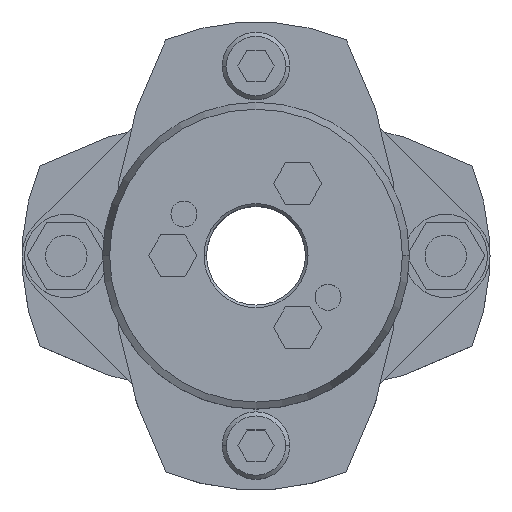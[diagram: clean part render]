
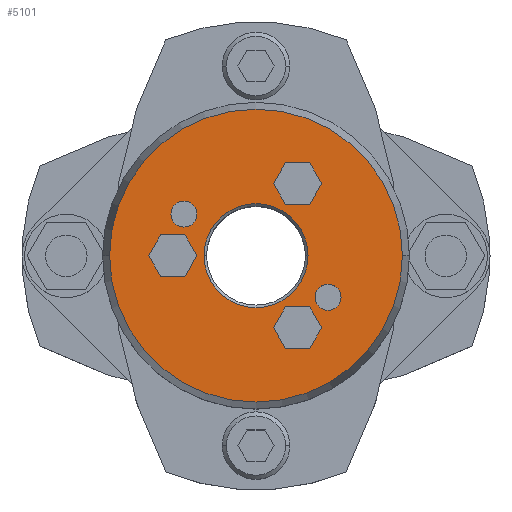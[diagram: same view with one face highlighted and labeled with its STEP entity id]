
A CAD part, top view. The second image highlights one B-rep face of the part: STEP entity #5101.
In plain terms, the highlighted planar face has unit normal (0, 0, 1).
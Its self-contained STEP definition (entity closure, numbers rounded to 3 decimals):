
#857=CARTESIAN_POINT('',(-10.,0.,39.25));
#858=VERTEX_POINT('',#857);
#874=CARTESIAN_POINT('',(10.,0.,39.25));
#875=VERTEX_POINT('',#874);
#882=CARTESIAN_POINT('',(0.,0.,39.25));
#883=DIRECTION('',(0.0,0.0,1.0));
#884=DIRECTION('',(-1.0,0.0,0.0));
#885=AXIS2_PLACEMENT_3D('',#882,#883,#884);
#886=CIRCLE('',#885,10.0);
#887=EDGE_CURVE('',#875,#858,#886,.T.);
#1045=CARTESIAN_POINT('',(28.16,0.,39.25));
#1046=VERTEX_POINT('',#1045);
#1053=CARTESIAN_POINT('',(-28.16,0.,39.25));
#1054=VERTEX_POINT('',#1053);
#1055=CARTESIAN_POINT('',(0.,0.,39.25));
#1056=DIRECTION('',(0.0,0.0,-1.0));
#1057=DIRECTION('',(1.0,0.0,0.0));
#1058=AXIS2_PLACEMENT_3D('',#1055,#1056,#1057);
#1059=CIRCLE('',#1058,28.16);
#1060=EDGE_CURVE('',#1046,#1054,#1059,.T.);
#1303=CARTESIAN_POINT('',(-16.356,8.,39.25));
#1304=VERTEX_POINT('',#1303);
#1320=CARTESIAN_POINT('',(-11.356,8.,39.25));
#1321=VERTEX_POINT('',#1320);
#1328=CARTESIAN_POINT('',(-13.856,8.,39.25));
#1329=DIRECTION('',(0.0,0.0,-1.0));
#1330=DIRECTION('',(-1.0,0.0,0.0));
#1331=AXIS2_PLACEMENT_3D('',#1328,#1329,#1330);
#1332=CIRCLE('',#1331,2.5);
#1333=EDGE_CURVE('',#1304,#1321,#1332,.T.);
#1345=CARTESIAN_POINT('',(11.356,-8.,39.25));
#1346=VERTEX_POINT('',#1345);
#1362=CARTESIAN_POINT('',(16.356,-8.,39.25));
#1363=VERTEX_POINT('',#1362);
#1370=CARTESIAN_POINT('',(13.856,-8.,39.25));
#1371=DIRECTION('',(0.0,0.0,-1.0));
#1372=DIRECTION('',(-1.0,0.0,0.0));
#1373=AXIS2_PLACEMENT_3D('',#1370,#1371,#1372);
#1374=CIRCLE('',#1373,2.5);
#1375=EDGE_CURVE('',#1346,#1363,#1374,.T.);
#3617=CARTESIAN_POINT('',(3.381,13.856,39.25));
#3618=VERTEX_POINT('',#3617);
#3625=CARTESIAN_POINT('',(5.691,9.856,39.25));
#3626=VERTEX_POINT('',#3625);
#3627=CARTESIAN_POINT('',(5.691,9.856,39.25));
#3628=DIRECTION('',(-0.5,0.866,0.0));
#3629=VECTOR('',#3628,4.619);
#3630=LINE('',#3627,#3629);
#3631=EDGE_CURVE('',#3626,#3618,#3630,.T.);
#3655=CARTESIAN_POINT('',(5.691,17.856,39.25));
#3656=VERTEX_POINT('',#3655);
#3663=CARTESIAN_POINT('',(3.381,13.856,39.25));
#3664=DIRECTION('',(0.5,0.866,0.0));
#3665=VECTOR('',#3664,4.619);
#3666=LINE('',#3663,#3665);
#3667=EDGE_CURVE('',#3618,#3656,#3666,.T.);
#3686=CARTESIAN_POINT('',(10.309,17.856,39.25));
#3687=VERTEX_POINT('',#3686);
#3694=CARTESIAN_POINT('',(5.691,17.856,39.25));
#3695=DIRECTION('',(1.0,0.0,0.0));
#3696=VECTOR('',#3695,4.619);
#3697=LINE('',#3694,#3696);
#3698=EDGE_CURVE('',#3656,#3687,#3697,.T.);
#3717=CARTESIAN_POINT('',(12.619,13.856,39.25));
#3718=VERTEX_POINT('',#3717);
#3725=CARTESIAN_POINT('',(10.309,17.856,39.25));
#3726=DIRECTION('',(0.5,-0.866,0.0));
#3727=VECTOR('',#3726,4.619);
#3728=LINE('',#3725,#3727);
#3729=EDGE_CURVE('',#3687,#3718,#3728,.T.);
#3748=CARTESIAN_POINT('',(10.309,9.856,39.25));
#3749=VERTEX_POINT('',#3748);
#3756=CARTESIAN_POINT('',(12.619,13.856,39.25));
#3757=DIRECTION('',(-0.5,-0.866,0.0));
#3758=VECTOR('',#3757,4.619);
#3759=LINE('',#3756,#3758);
#3760=EDGE_CURVE('',#3718,#3749,#3759,.T.);
#3778=CARTESIAN_POINT('',(10.309,9.856,39.25));
#3779=DIRECTION('',(-1.0,0.0,0.0));
#3780=VECTOR('',#3779,4.619);
#3781=LINE('',#3778,#3780);
#3782=EDGE_CURVE('',#3749,#3626,#3781,.T.);
#3817=CARTESIAN_POINT('',(-20.619,0.,39.25));
#3818=VERTEX_POINT('',#3817);
#3825=CARTESIAN_POINT('',(-18.309,-4.,39.25));
#3826=VERTEX_POINT('',#3825);
#3827=CARTESIAN_POINT('',(-18.309,-4.,39.25));
#3828=DIRECTION('',(-0.5,0.866,0.0));
#3829=VECTOR('',#3828,4.619);
#3830=LINE('',#3827,#3829);
#3831=EDGE_CURVE('',#3826,#3818,#3830,.T.);
#3855=CARTESIAN_POINT('',(-18.309,4.,39.25));
#3856=VERTEX_POINT('',#3855);
#3863=CARTESIAN_POINT('',(-20.619,0.,39.25));
#3864=DIRECTION('',(0.5,0.866,0.0));
#3865=VECTOR('',#3864,4.619);
#3866=LINE('',#3863,#3865);
#3867=EDGE_CURVE('',#3818,#3856,#3866,.T.);
#3886=CARTESIAN_POINT('',(-13.691,4.,39.25));
#3887=VERTEX_POINT('',#3886);
#3894=CARTESIAN_POINT('',(-18.309,4.,39.25));
#3895=DIRECTION('',(1.0,0.0,0.0));
#3896=VECTOR('',#3895,4.619);
#3897=LINE('',#3894,#3896);
#3898=EDGE_CURVE('',#3856,#3887,#3897,.T.);
#3917=CARTESIAN_POINT('',(-11.381,0.,39.25));
#3918=VERTEX_POINT('',#3917);
#3925=CARTESIAN_POINT('',(-13.691,4.,39.25));
#3926=DIRECTION('',(0.5,-0.866,0.0));
#3927=VECTOR('',#3926,4.619);
#3928=LINE('',#3925,#3927);
#3929=EDGE_CURVE('',#3887,#3918,#3928,.T.);
#3948=CARTESIAN_POINT('',(-13.691,-4.,39.25));
#3949=VERTEX_POINT('',#3948);
#3956=CARTESIAN_POINT('',(-11.381,0.,39.25));
#3957=DIRECTION('',(-0.5,-0.866,0.0));
#3958=VECTOR('',#3957,4.619);
#3959=LINE('',#3956,#3958);
#3960=EDGE_CURVE('',#3918,#3949,#3959,.T.);
#3978=CARTESIAN_POINT('',(-13.691,-4.,39.25));
#3979=DIRECTION('',(-1.0,0.0,0.0));
#3980=VECTOR('',#3979,4.619);
#3981=LINE('',#3978,#3980);
#3982=EDGE_CURVE('',#3949,#3826,#3981,.T.);
#4017=CARTESIAN_POINT('',(3.381,-13.856,39.25));
#4018=VERTEX_POINT('',#4017);
#4025=CARTESIAN_POINT('',(5.691,-17.856,39.25));
#4026=VERTEX_POINT('',#4025);
#4027=CARTESIAN_POINT('',(5.691,-17.856,39.25));
#4028=DIRECTION('',(-0.5,0.866,0.0));
#4029=VECTOR('',#4028,4.619);
#4030=LINE('',#4027,#4029);
#4031=EDGE_CURVE('',#4026,#4018,#4030,.T.);
#4055=CARTESIAN_POINT('',(5.691,-9.856,39.25));
#4056=VERTEX_POINT('',#4055);
#4063=CARTESIAN_POINT('',(3.381,-13.856,39.25));
#4064=DIRECTION('',(0.5,0.866,0.0));
#4065=VECTOR('',#4064,4.619);
#4066=LINE('',#4063,#4065);
#4067=EDGE_CURVE('',#4018,#4056,#4066,.T.);
#4086=CARTESIAN_POINT('',(10.309,-9.856,39.25));
#4087=VERTEX_POINT('',#4086);
#4094=CARTESIAN_POINT('',(5.691,-9.856,39.25));
#4095=DIRECTION('',(1.0,0.0,0.0));
#4096=VECTOR('',#4095,4.619);
#4097=LINE('',#4094,#4096);
#4098=EDGE_CURVE('',#4056,#4087,#4097,.T.);
#4117=CARTESIAN_POINT('',(12.619,-13.856,39.25));
#4118=VERTEX_POINT('',#4117);
#4125=CARTESIAN_POINT('',(10.309,-9.856,39.25));
#4126=DIRECTION('',(0.5,-0.866,0.0));
#4127=VECTOR('',#4126,4.619);
#4128=LINE('',#4125,#4127);
#4129=EDGE_CURVE('',#4087,#4118,#4128,.T.);
#4148=CARTESIAN_POINT('',(10.309,-17.856,39.25));
#4149=VERTEX_POINT('',#4148);
#4156=CARTESIAN_POINT('',(12.619,-13.856,39.25));
#4157=DIRECTION('',(-0.5,-0.866,0.0));
#4158=VECTOR('',#4157,4.619);
#4159=LINE('',#4156,#4158);
#4160=EDGE_CURVE('',#4118,#4149,#4159,.T.);
#4178=CARTESIAN_POINT('',(10.309,-17.856,39.25));
#4179=DIRECTION('',(-1.0,0.0,0.0));
#4180=VECTOR('',#4179,4.619);
#4181=LINE('',#4178,#4180);
#4182=EDGE_CURVE('',#4149,#4026,#4181,.T.);
#4208=CARTESIAN_POINT('',(13.856,-8.,39.25));
#4209=DIRECTION('',(0.0,0.0,-1.0));
#4210=DIRECTION('',(-1.0,0.0,0.0));
#4211=AXIS2_PLACEMENT_3D('',#4208,#4209,#4210);
#4212=CIRCLE('',#4211,2.5);
#4213=EDGE_CURVE('',#1363,#1346,#4212,.T.);
#4242=CARTESIAN_POINT('',(-13.856,8.,39.25));
#4243=DIRECTION('',(0.0,0.0,-1.0));
#4244=DIRECTION('',(-1.0,0.0,0.0));
#4245=AXIS2_PLACEMENT_3D('',#4242,#4243,#4244);
#4246=CIRCLE('',#4245,2.5);
#4247=EDGE_CURVE('',#1321,#1304,#4246,.T.);
#5040=CARTESIAN_POINT('',(0.,0.,39.25));
#5041=DIRECTION('',(0.0,0.0,-1.0));
#5042=DIRECTION('',(1.0,0.0,0.0));
#5043=AXIS2_PLACEMENT_3D('',#5040,#5041,#5042);
#5044=CIRCLE('',#5043,28.16);
#5045=EDGE_CURVE('',#1054,#1046,#5044,.T.);
#5050=CARTESIAN_POINT('',(-2.682,0.,39.25));
#5051=DIRECTION('',(0.0,0.0,1.0));
#5052=DIRECTION('',(-1.0,0.0,0.0));
#5053=AXIS2_PLACEMENT_3D('',#5050,#5051,#5052);
#5054=PLANE('',#5053);
#5055=ORIENTED_EDGE('',*,*,#5045,.F.);
#5056=ORIENTED_EDGE('',*,*,#1060,.F.);
#5057=EDGE_LOOP('',(#5055,#5056));
#5058=FACE_OUTER_BOUND('',#5057,.T.);
#5059=ORIENTED_EDGE('',*,*,#3631,.T.);
#5060=ORIENTED_EDGE('',*,*,#3667,.T.);
#5061=ORIENTED_EDGE('',*,*,#3698,.T.);
#5062=ORIENTED_EDGE('',*,*,#3729,.T.);
#5063=ORIENTED_EDGE('',*,*,#3760,.T.);
#5064=ORIENTED_EDGE('',*,*,#3782,.T.);
#5065=EDGE_LOOP('',(#5059,#5060,#5061,#5062,#5063,#5064));
#5066=FACE_BOUND('',#5065,.T.);
#5067=ORIENTED_EDGE('',*,*,#3831,.T.);
#5068=ORIENTED_EDGE('',*,*,#3867,.T.);
#5069=ORIENTED_EDGE('',*,*,#3898,.T.);
#5070=ORIENTED_EDGE('',*,*,#3929,.T.);
#5071=ORIENTED_EDGE('',*,*,#3960,.T.);
#5072=ORIENTED_EDGE('',*,*,#3982,.T.);
#5073=EDGE_LOOP('',(#5067,#5068,#5069,#5070,#5071,#5072));
#5074=FACE_BOUND('',#5073,.T.);
#5075=ORIENTED_EDGE('',*,*,#4031,.T.);
#5076=ORIENTED_EDGE('',*,*,#4067,.T.);
#5077=ORIENTED_EDGE('',*,*,#4098,.T.);
#5078=ORIENTED_EDGE('',*,*,#4129,.T.);
#5079=ORIENTED_EDGE('',*,*,#4160,.T.);
#5080=ORIENTED_EDGE('',*,*,#4182,.T.);
#5081=EDGE_LOOP('',(#5075,#5076,#5077,#5078,#5079,#5080));
#5082=FACE_BOUND('',#5081,.T.);
#5083=ORIENTED_EDGE('',*,*,#1375,.T.);
#5084=ORIENTED_EDGE('',*,*,#4213,.T.);
#5085=EDGE_LOOP('',(#5083,#5084));
#5086=FACE_BOUND('',#5085,.T.);
#5087=ORIENTED_EDGE('',*,*,#1333,.T.);
#5088=ORIENTED_EDGE('',*,*,#4247,.T.);
#5089=EDGE_LOOP('',(#5087,#5088));
#5090=FACE_BOUND('',#5089,.T.);
#5091=ORIENTED_EDGE('',*,*,#887,.F.);
#5092=CARTESIAN_POINT('',(0.,0.,39.25));
#5093=DIRECTION('',(0.0,0.0,1.0));
#5094=DIRECTION('',(-1.0,0.0,0.0));
#5095=AXIS2_PLACEMENT_3D('',#5092,#5093,#5094);
#5096=CIRCLE('',#5095,10.0);
#5097=EDGE_CURVE('',#858,#875,#5096,.T.);
#5098=ORIENTED_EDGE('',*,*,#5097,.F.);
#5099=EDGE_LOOP('',(#5091,#5098));
#5100=FACE_BOUND('',#5099,.T.);
#5101=ADVANCED_FACE('',(#5058,#5066,#5074,#5082,#5086,#5090,#5100),#5054,.T.);
